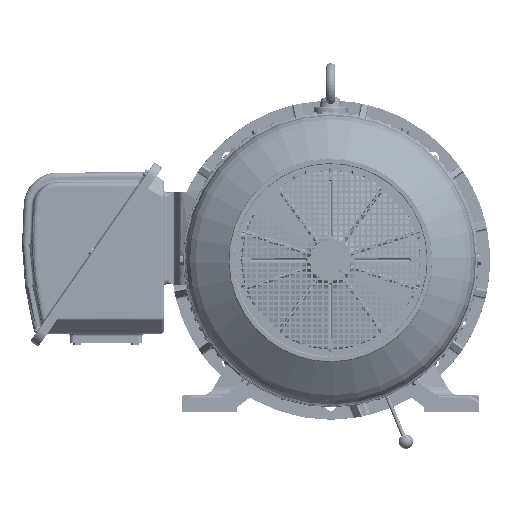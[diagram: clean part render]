
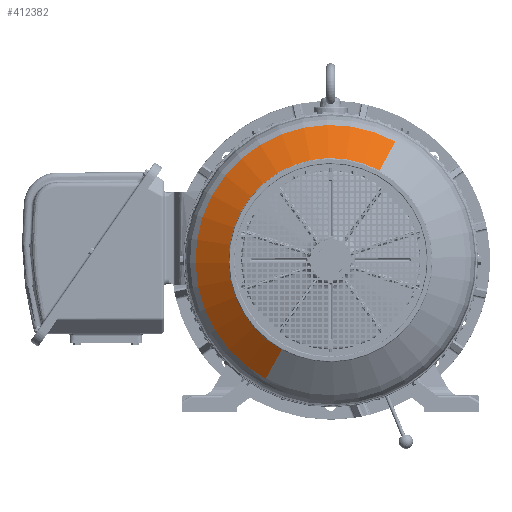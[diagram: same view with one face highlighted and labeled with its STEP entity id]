
A CAD part, front view. The second image highlights one B-rep face of the part: STEP entity #412382.
In plain terms, the highlighted conical face has half-angle 55 degrees and reference radius 211.279 mm.
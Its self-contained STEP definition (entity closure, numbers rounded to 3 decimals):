
#412283=CARTESIAN_POINT('Axis2P3D Location',(0.,-271.104,0.)) ;
#412287=CARTESIAN_POINT('Vertex',(-101.293,-271.104,-185.415)) ;
#412289=CARTESIAN_POINT('Vertex',(101.293,-271.104,185.415)) ;
#412352=CARTESIAN_POINT('Axis2P3D Location',(0.,-271.104,0.)) ;
#412357=CARTESIAN_POINT('Axis2P3D Location',(0.,-223.21,0.)) ;
#412361=CARTESIAN_POINT('Vertex',(-134.085,-223.21,-245.441)) ;
#412363=CARTESIAN_POINT('Vertex',(134.085,-223.21,245.441)) ;
#412366=CARTESIAN_POINT('Line Origine',(-117.689,-247.157,-215.428)) ;
#412371=CARTESIAN_POINT('Line Origine',(117.689,-247.157,215.428)) ;
#412284=DIRECTION('Axis2P3D Direction',(0.,1.,0.)) ;
#412353=DIRECTION('Axis2P3D Direction',(0.,1.,0.)) ;
#412354=DIRECTION('Axis2P3D XDirection',(0.479,0.,0.878)) ;
#412358=DIRECTION('Axis2P3D Direction',(0.,1.,0.)) ;
#412367=DIRECTION('Vector Direction',(-0.393,0.574,-0.719)) ;
#412372=DIRECTION('Vector Direction',(0.393,0.574,0.719)) ;
#412285=AXIS2_PLACEMENT_3D('Circle Axis2P3D',#412283,#412284,$) ;
#412355=AXIS2_PLACEMENT_3D('Cone Axis2P3D',#412352,#412353,#412354) ;
#412359=AXIS2_PLACEMENT_3D('Circle Axis2P3D',#412357,#412358,$) ;
#412377=ORIENTED_EDGE('',*,*,#412365,.F.) ;
#412378=ORIENTED_EDGE('',*,*,#412370,.T.) ;
#412379=ORIENTED_EDGE('',*,*,#412291,.T.) ;
#412380=ORIENTED_EDGE('',*,*,#412375,.F.) ;
#412368=VECTOR('Line Direction',#412367,1.) ;
#412373=VECTOR('Line Direction',#412372,1.) ;
#412382=ADVANCED_FACE('\X2\51434EF6672C9AD4\X0\',(#412381),#412356,.T.) ;
#412286=CIRCLE('generated circle',#412285,211.279) ;
#412360=CIRCLE('generated circle',#412359,279.679) ;
#412356=CONICAL_SURFACE('Cone',#412355,211.279,0.96) ;
#412291=EDGE_CURVE('',#412288,#412290,#412286,.T.) ;
#412365=EDGE_CURVE('',#412362,#412364,#412360,.T.) ;
#412370=EDGE_CURVE('',#412362,#412288,#412369,.F.) ;
#412375=EDGE_CURVE('',#412364,#412290,#412374,.F.) ;
#412376=EDGE_LOOP('',(#412377,#412378,#412379,#412380)) ;
#412381=FACE_OUTER_BOUND('',#412376,.T.) ;
#412369=LINE('Line',#412366,#412368) ;
#412374=LINE('Line',#412371,#412373) ;
#412288=VERTEX_POINT('',#412287) ;
#412290=VERTEX_POINT('',#412289) ;
#412362=VERTEX_POINT('',#412361) ;
#412364=VERTEX_POINT('',#412363) ;
